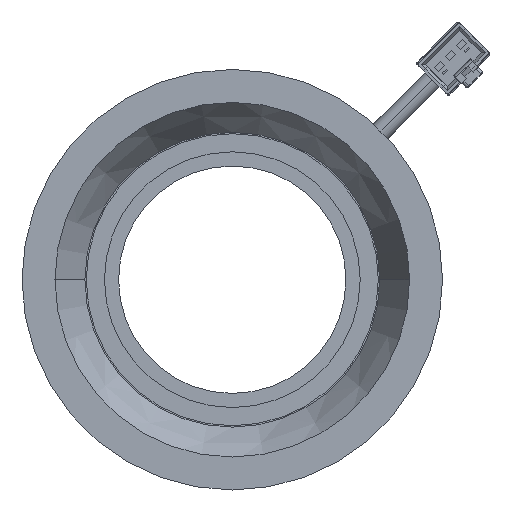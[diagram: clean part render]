
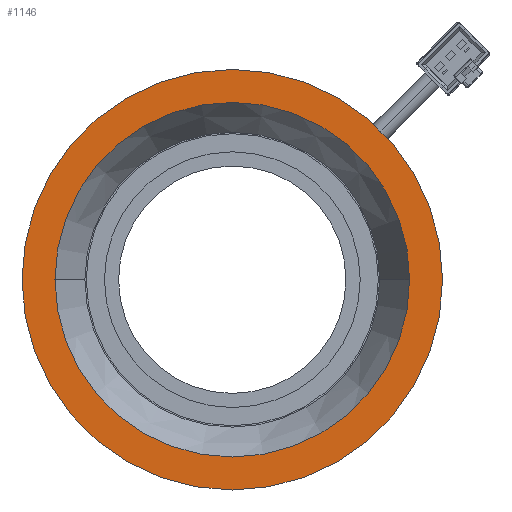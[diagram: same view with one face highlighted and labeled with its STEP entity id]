
A CAD part, front view. The second image highlights one B-rep face of the part: STEP entity #1146.
In plain terms, the highlighted planar face has unit normal (0, -1, 0).
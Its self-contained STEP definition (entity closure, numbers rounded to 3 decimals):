
#309=CARTESIAN_POINT('',(0.,-20.,0.));
#310=DIRECTION('',(0.,1.,0.));
#311=DIRECTION('',(1.,0.,0.));
#312=AXIS2_PLACEMENT_3D('',#309,#310,#311);
#314=CARTESIAN_POINT('',(0.,-20.,0.));
#315=DIRECTION('',(0.,1.,0.));
#316=DIRECTION('',(-1.,0.,0.));
#317=AXIS2_PLACEMENT_3D('',#314,#315,#316);
#319=CARTESIAN_POINT('',(0.,-20.,0.));
#320=DIRECTION('',(0.,-1.,0.));
#321=DIRECTION('',(1.,0.,0.));
#322=AXIS2_PLACEMENT_3D('',#319,#320,#321);
#324=CARTESIAN_POINT('',(0.,-20.,0.));
#325=DIRECTION('',(0.,-1.,0.));
#326=DIRECTION('',(-1.,0.,0.));
#327=AXIS2_PLACEMENT_3D('',#324,#325,#326);
#617=CARTESIAN_POINT('',(-37.,-20.,0.));
#618=VERTEX_POINT('',#617);
#619=CARTESIAN_POINT('',(37.,-20.,0.));
#620=VERTEX_POINT('',#619);
#621=CARTESIAN_POINT('',(31.2,-20.,0.));
#622=CARTESIAN_POINT('',(-31.2,-20.,0.));
#623=VERTEX_POINT('',#621);
#624=VERTEX_POINT('',#622);
#1131=CARTESIAN_POINT('',(0.,-20.,0.));
#1132=DIRECTION('',(0.,1.,0.));
#1133=DIRECTION('',(1.,0.,0.));
#1134=AXIS2_PLACEMENT_3D('',#1131,#1132,#1133);
#1135=PLANE('',#1134);
#1136=ORIENTED_EDGE('',*,*,#1124,.T.);
#1137=ORIENTED_EDGE('',*,*,#1113,.T.);
#1138=EDGE_LOOP('',(#1136,#1137));
#1139=FACE_OUTER_BOUND('',#1138,.F.);
#1141=ORIENTED_EDGE('',*,*,#1140,.T.);
#1143=ORIENTED_EDGE('',*,*,#1142,.T.);
#1144=EDGE_LOOP('',(#1141,#1143));
#1145=FACE_BOUND('',#1144,.F.);
#313=CIRCLE('',#312,37.);
#318=CIRCLE('',#317,37.);
#323=CIRCLE('',#322,31.2);
#328=CIRCLE('',#327,31.2);
#1113=EDGE_CURVE('',#618,#620,#318,.T.);
#1124=EDGE_CURVE('',#620,#618,#313,.T.);
#1140=EDGE_CURVE('',#623,#624,#323,.T.);
#1142=EDGE_CURVE('',#624,#623,#328,.T.);
#1146=ADVANCED_FACE('',(#1139,#1145),#1135,.F.);
